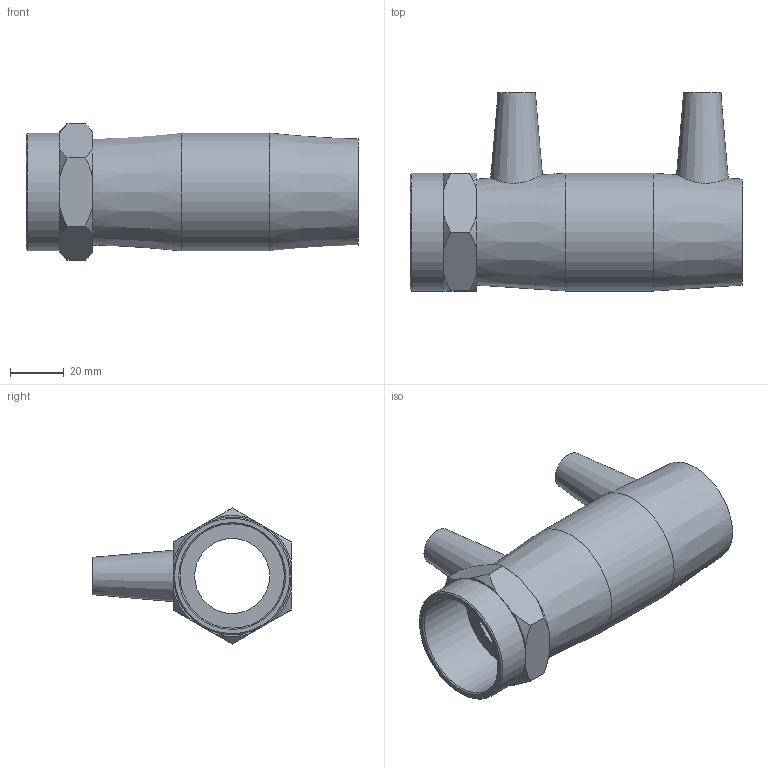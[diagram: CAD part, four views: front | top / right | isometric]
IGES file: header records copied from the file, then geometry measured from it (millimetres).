
Global section: file name: 493104032015.ipt; native system: Autodesk Inventor 2015; preprocessor: unknown; author: KIM; date: 20200202.122440; units: millimetre
Bounding box: 124 x 74 x 50.81 mm (x, y, z)
Volume: 95901.4 mm3; surface area: 35349.3 mm2
Topology: 1 solids, 1 shells, 54 faces, 130 edges, 86 vertices
Faces by surface type: plane 24, cone 17, revolution 9, cylinder 4
Full cylindrical faces by diameter (mm): 4 x2, 44 x2
